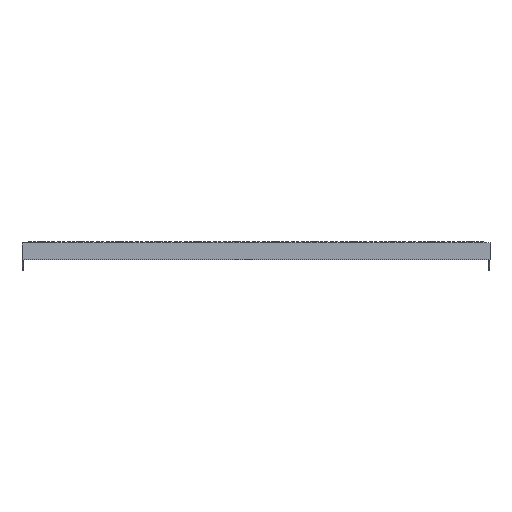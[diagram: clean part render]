
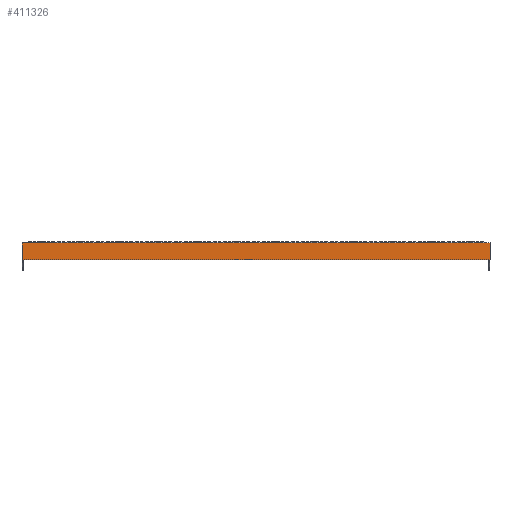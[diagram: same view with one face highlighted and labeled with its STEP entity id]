
A CAD part, front view. The second image highlights one B-rep face of the part: STEP entity #411326.
In plain terms, the highlighted planar face has unit normal (0, -1, 0).
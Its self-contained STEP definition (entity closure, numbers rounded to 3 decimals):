
#411326 = ADVANCED_FACE('',(#411327),#411341,.T.);
#411327 = FACE_BOUND('',#411328,.T.);
#411328 = EDGE_LOOP('',(#411329,#411352,#411368,#411384));
#411329 = ORIENTED_EDGE('',*,*,#411330,.T.);
#411330 = EDGE_CURVE('',#411331,#411333,#411335,.T.);
#411331 = VERTEX_POINT('',#411332);
#411332 = CARTESIAN_POINT('',(7200.,8795.,
    0.));
#411333 = VERTEX_POINT('',#411334);
#411334 = CARTESIAN_POINT('',(6000.,8795.,
    0.));
#411335 = SURFACE_CURVE('',#411336,(#411340),.PCURVE_S1.);
#411336 = LINE('',#411337,#411338);
#411337 = CARTESIAN_POINT('',(7200.,8795.,
    0.));
#411338 = VECTOR('',#411339,1.);
#411339 = DIRECTION('',(-1.,0.,0.));
#411340 = PCURVE('',#411341,#411346);
#411341 = PLANE('',#411342);
#411342 = AXIS2_PLACEMENT_3D('',#411343,#411344,#411345);
#411343 = CARTESIAN_POINT('',(6600.,8795.,
    -21.25));
#411344 = DIRECTION('',(0.,-1.,0.));
#411345 = DIRECTION('',(0.,0.,-1.));
#411346 = DEFINITIONAL_REPRESENTATION('',(#411347),#411351);
#411347 = LINE('',#411348,#411349);
#411348 = CARTESIAN_POINT('',(-21.25,600.));
#411349 = VECTOR('',#411350,1.);
#411350 = DIRECTION('',(0.,-1.));
#411351 = ( GEOMETRIC_REPRESENTATION_CONTEXT(2) 
PARAMETRIC_REPRESENTATION_CONTEXT() REPRESENTATION_CONTEXT('2D SPACE',''
  ) );
#411352 = ORIENTED_EDGE('',*,*,#411353,.T.);
#411353 = EDGE_CURVE('',#411333,#411354,#411356,.T.);
#411354 = VERTEX_POINT('',#411355);
#411355 = CARTESIAN_POINT('',(6000.,8795.,-42.5)
  );
#411356 = SURFACE_CURVE('',#411357,(#411361),.PCURVE_S1.);
#411357 = LINE('',#411358,#411359);
#411358 = CARTESIAN_POINT('',(6000.,8795.,
    0.));
#411359 = VECTOR('',#411360,1.);
#411360 = DIRECTION('',(0.,0.,-1.));
#411361 = PCURVE('',#411341,#411362);
#411362 = DEFINITIONAL_REPRESENTATION('',(#411363),#411367);
#411363 = LINE('',#411364,#411365);
#411364 = CARTESIAN_POINT('',(-21.25,-600.));
#411365 = VECTOR('',#411366,1.);
#411366 = DIRECTION('',(1.,0.));
#411367 = ( GEOMETRIC_REPRESENTATION_CONTEXT(2) 
PARAMETRIC_REPRESENTATION_CONTEXT() REPRESENTATION_CONTEXT('2D SPACE',''
  ) );
#411368 = ORIENTED_EDGE('',*,*,#411369,.T.);
#411369 = EDGE_CURVE('',#411354,#411370,#411372,.T.);
#411370 = VERTEX_POINT('',#411371);
#411371 = CARTESIAN_POINT('',(7200.,8795.,
    -42.5));
#411372 = SURFACE_CURVE('',#411373,(#411377),.PCURVE_S1.);
#411373 = LINE('',#411374,#411375);
#411374 = CARTESIAN_POINT('',(6000.,8795.,-42.5)
  );
#411375 = VECTOR('',#411376,1.);
#411376 = DIRECTION('',(1.,0.,0.));
#411377 = PCURVE('',#411341,#411378);
#411378 = DEFINITIONAL_REPRESENTATION('',(#411379),#411383);
#411379 = LINE('',#411380,#411381);
#411380 = CARTESIAN_POINT('',(21.25,-600.));
#411381 = VECTOR('',#411382,1.);
#411382 = DIRECTION('',(0.,1.));
#411383 = ( GEOMETRIC_REPRESENTATION_CONTEXT(2) 
PARAMETRIC_REPRESENTATION_CONTEXT() REPRESENTATION_CONTEXT('2D SPACE',''
  ) );
#411384 = ORIENTED_EDGE('',*,*,#411385,.T.);
#411385 = EDGE_CURVE('',#411370,#411331,#411386,.T.);
#411386 = SURFACE_CURVE('',#411387,(#411391),.PCURVE_S1.);
#411387 = LINE('',#411388,#411389);
#411388 = CARTESIAN_POINT('',(7200.,8795.,
    -42.5));
#411389 = VECTOR('',#411390,1.);
#411390 = DIRECTION('',(0.,0.,1.));
#411391 = PCURVE('',#411341,#411392);
#411392 = DEFINITIONAL_REPRESENTATION('',(#411393),#411397);
#411393 = LINE('',#411394,#411395);
#411394 = CARTESIAN_POINT('',(21.25,600.));
#411395 = VECTOR('',#411396,1.);
#411396 = DIRECTION('',(-1.,0.));
#411397 = ( GEOMETRIC_REPRESENTATION_CONTEXT(2) 
PARAMETRIC_REPRESENTATION_CONTEXT() REPRESENTATION_CONTEXT('2D SPACE',''
  ) );
